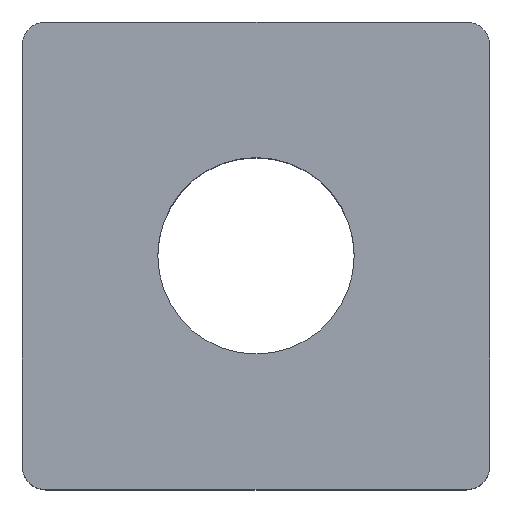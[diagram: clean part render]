
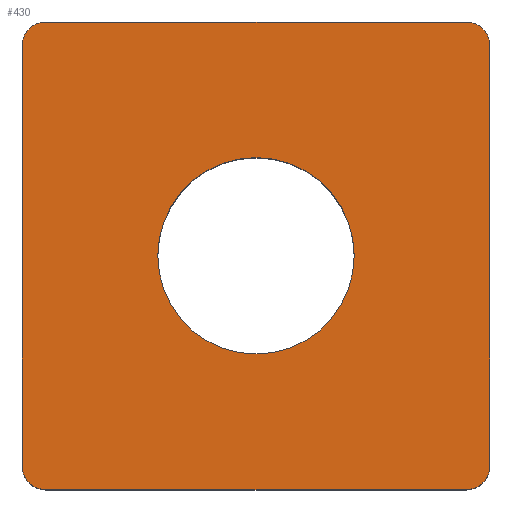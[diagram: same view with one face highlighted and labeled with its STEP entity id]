
A CAD part, top view. The second image highlights one B-rep face of the part: STEP entity #430.
In plain terms, the highlighted planar face has unit normal (0, 0, 1).
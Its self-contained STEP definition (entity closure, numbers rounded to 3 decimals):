
#1 = EDGE_CURVE ( 'NONE', #187, #34, #434, .T. ) ;
#2 = VERTEX_POINT ( 'NONE', #119 ) ;
#5 = DIRECTION ( 'NONE',  ( 1., 0., 0. ) ) ;
#6 = DIRECTION ( 'NONE',  ( 0., 0., 1. ) ) ;
#8 = EDGE_CURVE ( 'NONE', #405, #312, #428, .T. ) ;
#9 = CARTESIAN_POINT ( 'NONE',  ( 0., 0., 2.5 ) ) ;
#11 = DIRECTION ( 'NONE',  ( 1., 0., 0. ) ) ;
#14 = PLANE ( 'NONE',  #78 ) ;
#16 = EDGE_CURVE ( 'NONE', #34, #336, #17, .T. ) ;
#17 = CIRCLE ( 'NONE', #197, 0.5 ) ;
#19 = EDGE_CURVE ( 'NONE', #2, #63, #253, .T. ) ;
#23 = EDGE_CURVE ( 'NONE', #172, #354, #422, .T. ) ;
#24 = EDGE_CURVE ( 'NONE', #445, #187, #74, .T. ) ;
#29 = LINE ( 'NONE', #141, #359 ) ;
#33 = DIRECTION ( 'NONE',  ( 1., 0., 0. ) ) ;
#34 = VERTEX_POINT ( 'NONE', #118 ) ;
#37 = CARTESIAN_POINT ( 'NONE',  ( -5., -5., 2.5 ) ) ;
#46 = CARTESIAN_POINT ( 'NONE',  ( 2.1, 0., 2.5 ) ) ;
#63 = VERTEX_POINT ( 'NONE', #370 ) ;
#74 = CIRCLE ( 'NONE', #248, 0.5 ) ;
#78 = AXIS2_PLACEMENT_3D ( 'NONE', #322, #163, #440 ) ;
#83 = AXIS2_PLACEMENT_3D ( 'NONE', #9, #6, #5 ) ;
#88 = ORIENTED_EDGE ( 'NONE', *, *, #404, .T. ) ;
#89 = DIRECTION ( 'NONE',  ( 0., 0., 1. ) ) ;
#108 = DIRECTION ( 'NONE',  ( 0., 1., 0. ) ) ;
#113 = DIRECTION ( 'NONE',  ( 1., 0., 0. ) ) ;
#118 = CARTESIAN_POINT ( 'NONE',  ( -4.5, 5., 2.5 ) ) ;
#119 = CARTESIAN_POINT ( 'NONE',  ( -5., -4.5, 2.5 ) ) ;
#129 = CARTESIAN_POINT ( 'NONE',  ( 4.5, 4.5, 2.5 ) ) ;
#130 = ORIENTED_EDGE ( 'NONE', *, *, #418, .F. ) ;
#138 = ORIENTED_EDGE ( 'NONE', *, *, #1, .T. ) ;
#141 = CARTESIAN_POINT ( 'NONE',  ( 5., 5., 2.5 ) ) ;
#144 = DIRECTION ( 'NONE',  ( 0., -1., 0. ) ) ;
#150 = CARTESIAN_POINT ( 'NONE',  ( -5., 5., 2.5 ) ) ;
#151 = CARTESIAN_POINT ( 'NONE',  ( 5., -4.5, 2.5 ) ) ;
#157 = CARTESIAN_POINT ( 'NONE',  ( 4.5, -4.5, 2.5 ) ) ;
#163 = DIRECTION ( 'NONE',  ( 0., 0., 1. ) ) ;
#172 = VERTEX_POINT ( 'NONE', #270 ) ;
#179 = CARTESIAN_POINT ( 'NONE',  ( -2.1, 0., 2.5 ) ) ;
#180 = DIRECTION ( 'NONE',  ( 1., 0., 0. ) ) ;
#183 = DIRECTION ( 'NONE',  ( 0., 0., 1. ) ) ;
#184 = DIRECTION ( 'NONE',  ( 0., 0., 1. ) ) ;
#185 = CARTESIAN_POINT ( 'NONE',  ( -5., 4.5, 2.5 ) ) ;
#187 = VERTEX_POINT ( 'NONE', #255 ) ;
#196 = ORIENTED_EDGE ( 'NONE', *, *, #8, .F. ) ;
#197 = AXIS2_PLACEMENT_3D ( 'NONE', #227, #225, #223 ) ;
#202 = ORIENTED_EDGE ( 'NONE', *, *, #352, .T. ) ;
#203 = AXIS2_PLACEMENT_3D ( 'NONE', #157, #183, #180 ) ;
#205 = DIRECTION ( 'NONE',  ( 1., 0., 0. ) ) ;
#213 = DIRECTION ( 'NONE',  ( 0., 0., 1. ) ) ;
#217 = EDGE_LOOP ( 'NONE', ( #196, #130 ) ) ;
#218 = VECTOR ( 'NONE', #286, 1000. ) ;
#222 = VECTOR ( 'NONE', #33, 1000. ) ;
#223 = DIRECTION ( 'NONE',  ( 1., 0., 0. ) ) ;
#225 = DIRECTION ( 'NONE',  ( 0., 0., 1. ) ) ;
#227 = CARTESIAN_POINT ( 'NONE',  ( -4.5, 4.5, 2.5 ) ) ;
#230 = AXIS2_PLACEMENT_3D ( 'NONE', #295, #184, #205 ) ;
#234 = LINE ( 'NONE', #37, #222 ) ;
#244 = AXIS2_PLACEMENT_3D ( 'NONE', #257, #213, #113 ) ;
#248 = AXIS2_PLACEMENT_3D ( 'NONE', #129, #89, #11 ) ;
#253 = CIRCLE ( 'NONE', #244, 0.5 ) ;
#255 = CARTESIAN_POINT ( 'NONE',  ( 4.5, 5., 2.5 ) ) ;
#257 = CARTESIAN_POINT ( 'NONE',  ( -4.5, -4.5, 2.5 ) ) ;
#262 = ORIENTED_EDGE ( 'NONE', *, *, #24, .T. ) ;
#270 = CARTESIAN_POINT ( 'NONE',  ( 4.5, -5., 2.5 ) ) ;
#271 = ORIENTED_EDGE ( 'NONE', *, *, #23, .T. ) ;
#280 = ORIENTED_EDGE ( 'NONE', *, *, #367, .T. ) ;
#282 = VECTOR ( 'NONE', #144, 1000. ) ;
#286 = DIRECTION ( 'NONE',  ( -1., 0., 0. ) ) ;
#295 = CARTESIAN_POINT ( 'NONE',  ( 0., 0., 2.5 ) ) ;
#308 = ORIENTED_EDGE ( 'NONE', *, *, #19, .T. ) ;
#312 = VERTEX_POINT ( 'NONE', #179 ) ;
#322 = CARTESIAN_POINT ( 'NONE',  ( -5., 5., 2.5 ) ) ;
#324 = EDGE_LOOP ( 'NONE', ( #138, #392, #202, #308, #88, #271, #280, #262 ) ) ;
#327 = FACE_BOUND ( 'NONE', #217, .T. ) ;
#336 = VERTEX_POINT ( 'NONE', #185 ) ;
#352 = EDGE_CURVE ( 'NONE', #336, #2, #442, .T. ) ;
#354 = VERTEX_POINT ( 'NONE', #151 ) ;
#359 = VECTOR ( 'NONE', #108, 1000. ) ;
#365 = CARTESIAN_POINT ( 'NONE',  ( -5., 5., 2.5 ) ) ;
#367 = EDGE_CURVE ( 'NONE', #354, #445, #29, .T. ) ;
#370 = CARTESIAN_POINT ( 'NONE',  ( -4.5, -5., 2.5 ) ) ;
#392 = ORIENTED_EDGE ( 'NONE', *, *, #16, .T. ) ;
#394 = FACE_OUTER_BOUND ( 'NONE', #324, .T. ) ;
#402 = CIRCLE ( 'NONE', #83, 2.1 ) ;
#404 = EDGE_CURVE ( 'NONE', #63, #172, #234, .T. ) ;
#405 = VERTEX_POINT ( 'NONE', #46 ) ;
#418 = EDGE_CURVE ( 'NONE', #312, #405, #402, .T. ) ;
#422 = CIRCLE ( 'NONE', #203, 0.5 ) ;
#428 = CIRCLE ( 'NONE', #230, 2.1 ) ;
#430 = ADVANCED_FACE ( 'NONE', ( #327, #394 ), #14, .T. ) ;
#434 = LINE ( 'NONE', #365, #218 ) ;
#435 = CARTESIAN_POINT ( 'NONE',  ( 5., 4.5, 2.5 ) ) ;
#440 = DIRECTION ( 'NONE',  ( 1., 0., 0. ) ) ;
#442 = LINE ( 'NONE', #150, #282 ) ;
#445 = VERTEX_POINT ( 'NONE', #435 ) ;
